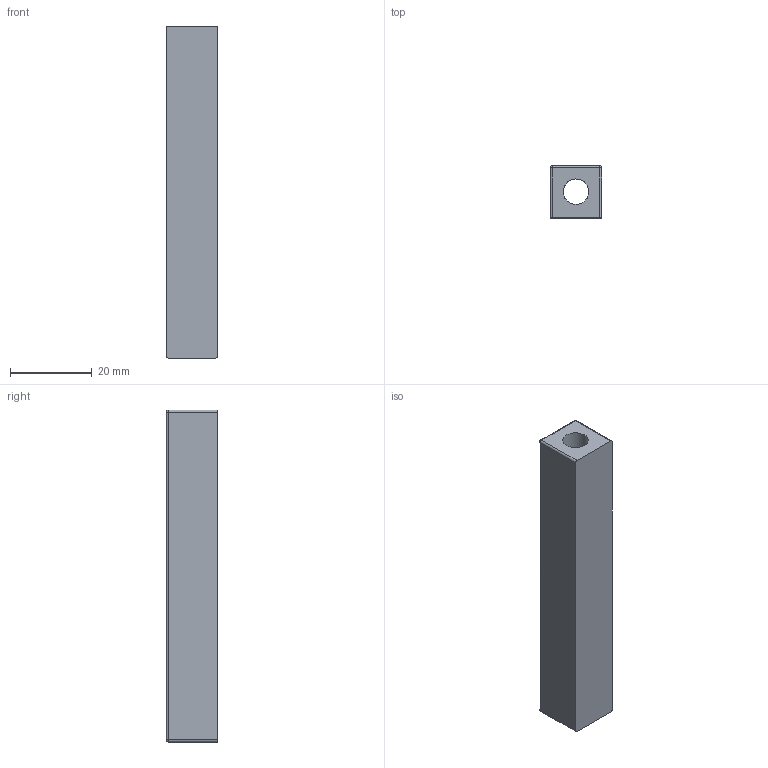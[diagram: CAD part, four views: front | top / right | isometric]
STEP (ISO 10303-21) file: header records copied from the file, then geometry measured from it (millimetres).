
FILE_DESCRIPTION(/* description */ (''),/* implementation_level */ '2;1');
FILE_NAME(/* name */ 'D:\Downloads\Project-ButWhatAbout-ECM-9x19-Barrel-DIY-V1-Package (3)\Revised Components\asdf\ECM CAD\STEP\Chambering Tool Spacing Jig Metric (6mm).stp',/* time_stamp */ '2021-02-15T01:38:42-06:00',/* author */ ('johne'),/* organization */ (''),/* preprocessor_version */ 'ST-DEVELOPER v18',/* originating_system */ 'Autodesk Inventor 2020',/* authorisation */ '');
FILE_SCHEMA (('AUTOMOTIVE_DESIGN { 1 0 10303 214 3 1 1 }'));
Length unit declared in the file: inch
Products named in the file (1): chamber tool headspacing jig 6mm
Bounding box: 12.7 x 12.7 x 81.27 mm (x, y, z)
Volume: 6594.4 mm3; surface area: 5738.4 mm2
Topology: 1 solids, 1 shells, 32 faces, 71 edges, 41 vertices
Faces by surface type: cylinder 16, plane 9, sphere 6, torus 1
Full cylindrical faces by diameter (mm): 6.25 x1
Entity records: 924 total; most frequent: DIRECTION 171, CARTESIAN_POINT 145, ORIENTED_EDGE 142, EDGE_CURVE 71, AXIS2_PLACEMENT_3D 67, VERTEX_POINT 41, LINE 37, VECTOR 37
